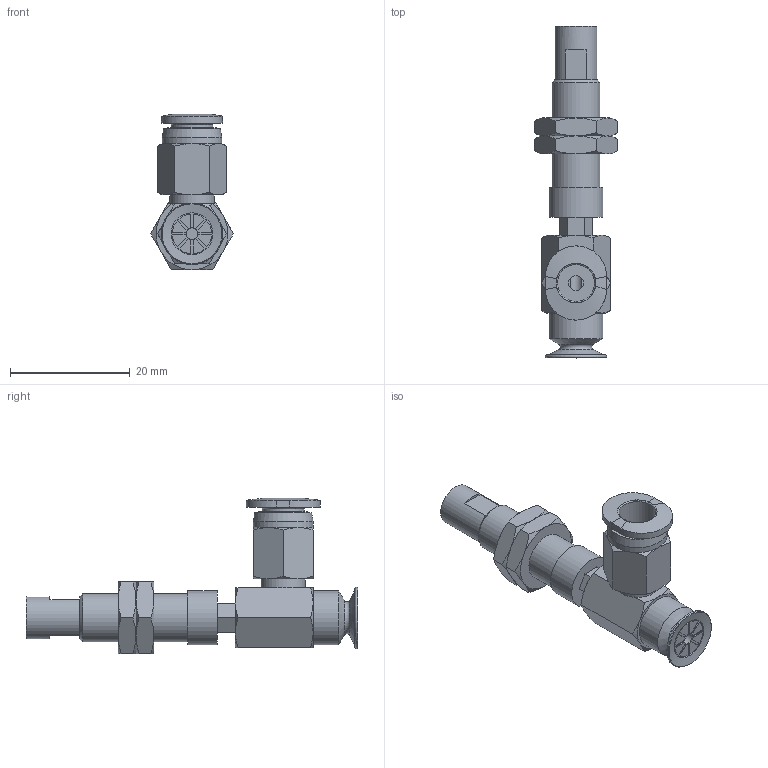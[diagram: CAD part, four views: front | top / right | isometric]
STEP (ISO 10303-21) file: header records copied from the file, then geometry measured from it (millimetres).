
FILE_DESCRIPTION(('STEP AP203'),'1');
FILE_NAME('-O.stp','2025-03-13T02:55:22',(' '),(' '),'Spatial InterOp 3D',' ',' ');
FILE_SCHEMA(('CONFIG_CONTROL_DESIGN'));
Length unit declared in the file: millimetre
Products named in the file (7): BNABPAYH-10B-3-※-O; NAPATH-10A-3--M; NAPATH-10A-3--F; Nut-10A-S; CONNECTOR-10A-3-PA; PC-C_06-M5; BPAG-10B-※
Assembly tree (7 placements, depth 2):
  BNABPAYH-10B-3-※-O
    NAPATH-10A-3--M
    NAPATH-10A-3--F
    Nut-10A-S  x2
    CONNECTOR-10A-3-PA
    PC-C_06-M5
    BPAG-10B-※
Bounding box: 13.86 x 55.5 x 25.98 mm (x, y, z)
Volume: 4216.1 mm3; surface area: 5215.5 mm2
Topology: 7 solids, 7 shells, 224 faces, 500 edges, 308 vertices
Faces by surface type: plane 104, cone 67, cylinder 33, torus 13, bspline 4, revolution 3
Full cylindrical faces by diameter (mm): 2 x2, 4 x4, 4.134 x2, 5 x2, 6 x2, 7 x3, 7.188 x2, 7.4 x1, 8 x1, 8.2 x1, 9 x2, 10 x1
Entity records: 6062 total; most frequent: CARTESIAN_POINT 1578, DIRECTION 855, ORIENTED_EDGE 780, EDGE_CURVE 390, AXIS2_PLACEMENT_3D 349, EDGE_LOOP 280, VERTEX_POINT 270, FACE_OUTER_BOUND 236
